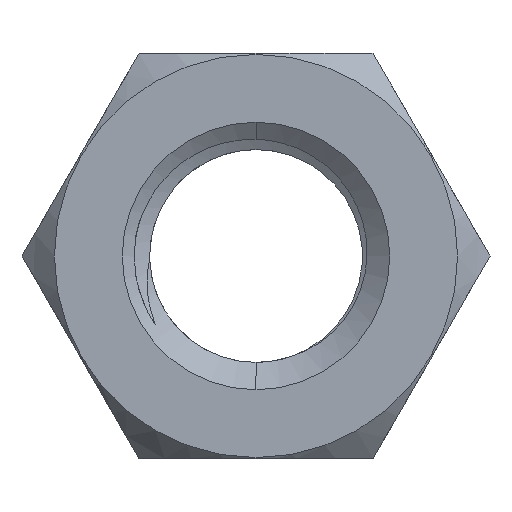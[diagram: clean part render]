
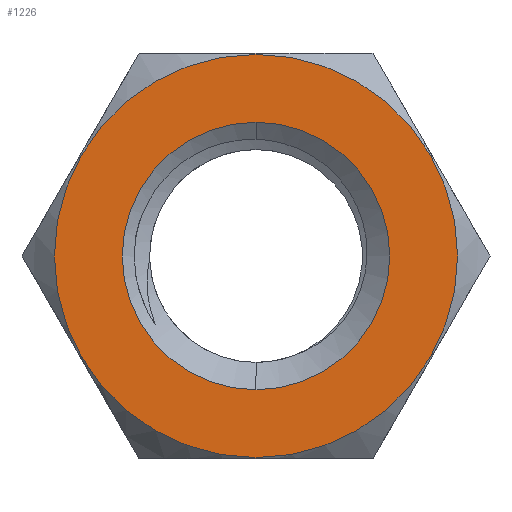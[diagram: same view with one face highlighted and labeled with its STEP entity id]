
A CAD part, front view. The second image highlights one B-rep face of the part: STEP entity #1226.
In plain terms, the highlighted planar face has unit normal (0, -1, 0).
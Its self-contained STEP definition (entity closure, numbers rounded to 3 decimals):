
#91 = ORIENTED_EDGE ( 'NONE', *, *, #2061, .T. ) ;
#96 = ORIENTED_EDGE ( 'NONE', *, *, #2726, .F. ) ;
#144 = CARTESIAN_POINT ( 'NONE',  ( 0., -2.5, -4.974 ) ) ;
#273 = CIRCLE ( 'NONE', #1148, 3.3 ) ;
#292 = CARTESIAN_POINT ( 'NONE',  ( 0., -2.5, 0. ) ) ;
#381 = AXIS2_PLACEMENT_3D ( 'NONE', #292, #501, #1687 ) ;
#501 = DIRECTION ( 'NONE',  ( 0., -1., 0. ) ) ;
#601 = DIRECTION ( 'NONE',  ( 0., 0., -1. ) ) ;
#622 = CARTESIAN_POINT ( 'NONE',  ( 0., -2.5, 0. ) ) ;
#676 = CARTESIAN_POINT ( 'NONE',  ( 0., -2.5, 0. ) ) ;
#839 = DIRECTION ( 'NONE',  ( 0., -1., 0. ) ) ;
#982 = EDGE_LOOP ( 'NONE', ( #96, #2058 ) ) ;
#1005 = CARTESIAN_POINT ( 'NONE',  ( 0., -2.5, 0. ) ) ;
#1076 = FACE_BOUND ( 'NONE', #982, .T. ) ;
#1136 = PLANE ( 'NONE',  #1194 ) ;
#1148 = AXIS2_PLACEMENT_3D ( 'NONE', #1793, #2048, #601 ) ;
#1194 = AXIS2_PLACEMENT_3D ( 'NONE', #622, #2551, #2066 ) ;
#1226 = ADVANCED_FACE ( 'NONE', ( #1076, #1605 ), #1136, .F. ) ;
#1248 = CIRCLE ( 'NONE', #2989, 4.974 ) ;
#1605 = FACE_OUTER_BOUND ( 'NONE', #2724, .T. ) ;
#1615 = DIRECTION ( 'NONE',  ( 0., -1., 0. ) ) ;
#1687 = DIRECTION ( 'NONE',  ( 0., 0., -1. ) ) ;
#1695 = CIRCLE ( 'NONE', #381, 3.3 ) ;
#1764 = EDGE_CURVE ( 'NONE', #2657, #1899, #273, .T. ) ;
#1793 = CARTESIAN_POINT ( 'NONE',  ( 0., -2.5, 0. ) ) ;
#1796 = VERTEX_POINT ( 'NONE', #2776 ) ;
#1870 = DIRECTION ( 'NONE',  ( 0., 0., -1. ) ) ;
#1899 = VERTEX_POINT ( 'NONE', #2808 ) ;
#1907 = ORIENTED_EDGE ( 'NONE', *, *, #2309, .T. ) ;
#2042 = CIRCLE ( 'NONE', #3030, 4.974 ) ;
#2048 = DIRECTION ( 'NONE',  ( 0., -1., 0. ) ) ;
#2058 = ORIENTED_EDGE ( 'NONE', *, *, #1764, .F. ) ;
#2061 = EDGE_CURVE ( 'NONE', #2250, #1796, #2042, .T. ) ;
#2066 = DIRECTION ( 'NONE',  ( 0., 0., 1. ) ) ;
#2250 = VERTEX_POINT ( 'NONE', #144 ) ;
#2309 = EDGE_CURVE ( 'NONE', #1796, #2250, #1248, .T. ) ;
#2399 = CARTESIAN_POINT ( 'NONE',  ( 0., -2.5, -3.3 ) ) ;
#2551 = DIRECTION ( 'NONE',  ( 0., 1., 0. ) ) ;
#2657 = VERTEX_POINT ( 'NONE', #2399 ) ;
#2724 = EDGE_LOOP ( 'NONE', ( #1907, #91 ) ) ;
#2726 = EDGE_CURVE ( 'NONE', #1899, #2657, #1695, .T. ) ;
#2776 = CARTESIAN_POINT ( 'NONE',  ( 0., -2.5, 4.974 ) ) ;
#2808 = CARTESIAN_POINT ( 'NONE',  ( 0., -2.5, 3.3 ) ) ;
#2944 = DIRECTION ( 'NONE',  ( 0., 0., -1. ) ) ;
#2989 = AXIS2_PLACEMENT_3D ( 'NONE', #1005, #839, #2944 ) ;
#3030 = AXIS2_PLACEMENT_3D ( 'NONE', #676, #1615, #1870 ) ;
